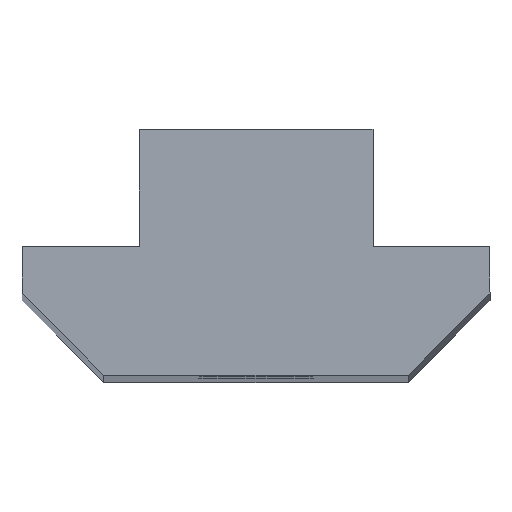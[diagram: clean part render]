
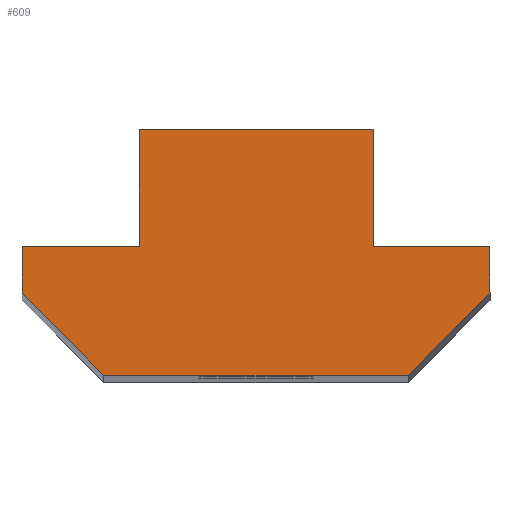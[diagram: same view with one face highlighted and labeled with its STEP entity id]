
A CAD part, top view. The second image highlights one B-rep face of the part: STEP entity #609.
In plain terms, the highlighted planar face has unit normal (0, 0, 1).
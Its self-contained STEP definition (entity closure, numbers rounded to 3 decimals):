
#245=CARTESIAN_POINT('',(209.942,132.586,180.0));
#246=VERTEX_POINT('',#245);
#247=CARTESIAN_POINT('',(214.942,132.586,180.0));
#248=VERTEX_POINT('',#247);
#249=CARTESIAN_POINT('',(209.942,132.586,180.0));
#250=DIRECTION('',(1.0,0.0,0.0));
#251=VECTOR('',#250,5.);
#252=LINE('',#249,#251);
#253=EDGE_CURVE('',#246,#248,#252,.T.);
#285=CARTESIAN_POINT('',(214.942,137.586,180.0));
#286=VERTEX_POINT('',#285);
#287=CARTESIAN_POINT('',(214.942,132.586,180.0));
#288=DIRECTION('',(0.0,1.0,0.0));
#289=VECTOR('',#288,5.0);
#290=LINE('',#287,#289);
#291=EDGE_CURVE('',#248,#286,#290,.T.);
#316=CARTESIAN_POINT('',(224.942,137.586,180.0));
#317=VERTEX_POINT('',#316);
#318=CARTESIAN_POINT('',(214.942,137.586,180.0));
#319=DIRECTION('',(1.0,0.0,0.0));
#320=VECTOR('',#319,10.0);
#321=LINE('',#318,#320);
#322=EDGE_CURVE('',#286,#317,#321,.T.);
#359=CARTESIAN_POINT('',(224.942,132.586,180.0));
#360=VERTEX_POINT('',#359);
#361=CARTESIAN_POINT('',(224.942,137.586,180.0));
#362=DIRECTION('',(0.0,-1.0,0.0));
#363=VECTOR('',#362,5.0);
#364=LINE('',#361,#363);
#365=EDGE_CURVE('',#317,#360,#364,.T.);
#390=CARTESIAN_POINT('',(229.942,132.586,180.0));
#391=VERTEX_POINT('',#390);
#392=CARTESIAN_POINT('',(224.942,132.586,180.0));
#393=DIRECTION('',(1.0,0.0,0.0));
#394=VECTOR('',#393,5.);
#395=LINE('',#392,#394);
#396=EDGE_CURVE('',#360,#391,#395,.T.);
#421=CARTESIAN_POINT('',(229.942,130.586,180.0));
#422=VERTEX_POINT('',#421);
#423=CARTESIAN_POINT('',(229.942,132.586,180.0));
#424=DIRECTION('',(0.0,-1.0,0.0));
#425=VECTOR('',#424,2.);
#426=LINE('',#423,#425);
#427=EDGE_CURVE('',#391,#422,#426,.T.);
#452=CARTESIAN_POINT('',(226.442,127.086,180.0));
#453=VERTEX_POINT('',#452);
#454=CARTESIAN_POINT('',(229.942,130.586,180.0));
#455=DIRECTION('',(-0.707,-0.707,0.0));
#456=VECTOR('',#455,4.95);
#457=LINE('',#454,#456);
#458=EDGE_CURVE('',#422,#453,#457,.T.);
#483=CARTESIAN_POINT('',(213.442,127.086,180.0));
#484=VERTEX_POINT('',#483);
#485=CARTESIAN_POINT('',(226.442,127.086,180.0));
#486=DIRECTION('',(-1.0,0.0,0.0));
#487=VECTOR('',#486,13.0);
#488=LINE('',#485,#487);
#489=EDGE_CURVE('',#453,#484,#488,.T.);
#526=CARTESIAN_POINT('',(209.942,130.586,180.0));
#527=VERTEX_POINT('',#526);
#528=CARTESIAN_POINT('',(213.442,127.086,180.0));
#529=DIRECTION('',(-0.707,0.707,0.0));
#530=VECTOR('',#529,4.95);
#531=LINE('',#528,#530);
#532=EDGE_CURVE('',#484,#527,#531,.T.);
#557=CARTESIAN_POINT('',(209.942,130.586,180.0));
#558=DIRECTION('',(0.0,1.0,0.0));
#559=VECTOR('',#558,2.);
#560=LINE('',#557,#559);
#561=EDGE_CURVE('',#527,#246,#560,.T.);
#592=CARTESIAN_POINT('',(219.942,131.925,180.0));
#593=DIRECTION('',(0.0,0.0,1.0));
#594=DIRECTION('',(1.0,0.0,0.0));
#595=AXIS2_PLACEMENT_3D('',#592,#593,#594);
#596=PLANE('',#595);
#597=ORIENTED_EDGE('',*,*,#253,.F.);
#598=ORIENTED_EDGE('',*,*,#561,.F.);
#599=ORIENTED_EDGE('',*,*,#532,.F.);
#600=ORIENTED_EDGE('',*,*,#489,.F.);
#601=ORIENTED_EDGE('',*,*,#458,.F.);
#602=ORIENTED_EDGE('',*,*,#427,.F.);
#603=ORIENTED_EDGE('',*,*,#396,.F.);
#604=ORIENTED_EDGE('',*,*,#365,.F.);
#605=ORIENTED_EDGE('',*,*,#322,.F.);
#606=ORIENTED_EDGE('',*,*,#291,.F.);
#607=EDGE_LOOP('',(#597,#598,#599,#600,#601,#602,#603,#604,#605,#606));
#608=FACE_OUTER_BOUND('',#607,.T.);
#609=ADVANCED_FACE('',(#608),#596,.T.);
